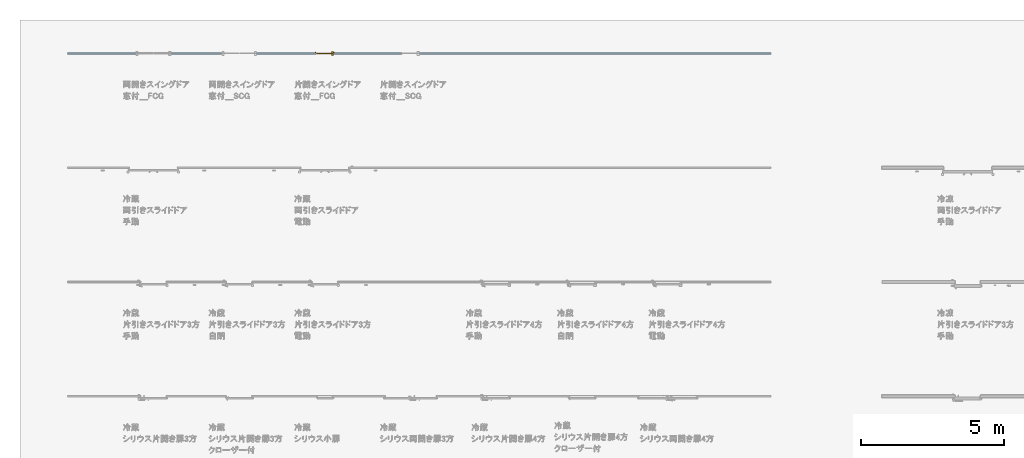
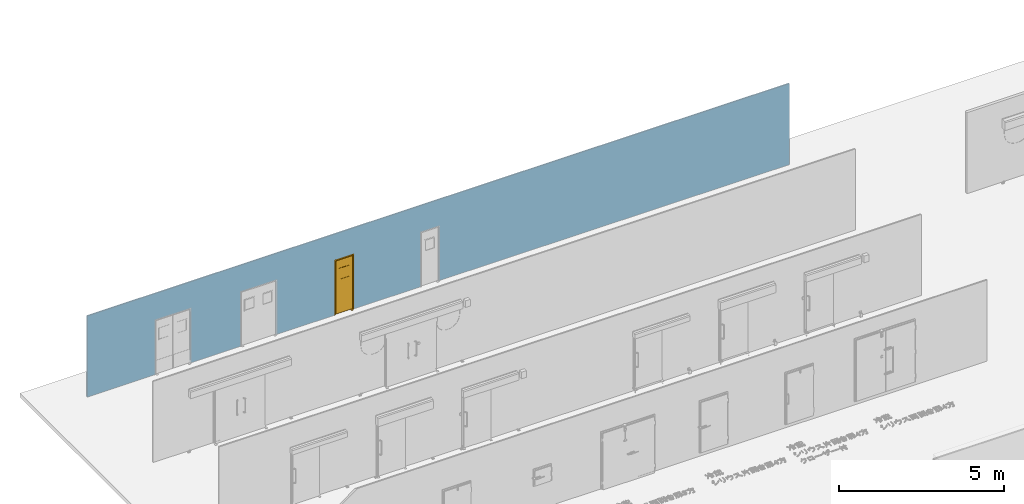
# One storey, part 6 of 16: 1 door, 4 openings, plus 1 element that does not belong to this part.
"""IFC2X3 building model written with IfcOpenShell, lengths in millimetres."""

from ifc_helpers import new_model, entity, si_unit, converted_unit, derived_unit, direction, frame, frame_2d, origin, place, context, subcontext, project, spatial, rectangle, extrude, faceted_brep, source, transform, mapped, material, material_list, layer, layer_set, layer_usage, type_object, type_shapes, element, fill, save


model = new_model("IFC2X3")

# Units and contexts
model_context = context("Model", 3, precision=0.01, world=origin(), true_north=direction((6.123031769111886e-17, 1.0)))
body_context = subcontext(model_context, "Body", "Model", "MODEL_VIEW")
ifc_project = project(units=[si_unit("LENGTHUNIT", "METRE", prefix="MILLI"), si_unit("AREAUNIT", "SQUARE_METRE"), si_unit("VOLUMEUNIT", "CUBIC_METRE"), converted_unit("PLANEANGLEUNIT", "DEGREE", entity("IfcRatioMeasure", 0.017453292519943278), si_unit("PLANEANGLEUNIT", "RADIAN"), dimensions=[0, 0, 0, 0, 0, 0, 0]), si_unit("MASSUNIT", "GRAM", prefix="KILO"), derived_unit("MASSDENSITYUNIT", [(si_unit("MASSUNIT", "GRAM", prefix="KILO"), 1), (si_unit("LENGTHUNIT", "METRE"), -3)]), derived_unit("IONCONCENTRATIONUNIT", [(si_unit("MASSUNIT", "GRAM", prefix="KILO"), 1), (si_unit("LENGTHUNIT", "METRE"), -3)]), derived_unit("MOMENTOFINERTIAUNIT", [(si_unit("LENGTHUNIT", "METRE"), 4)]), si_unit("TIMEUNIT", "SECOND"), si_unit("FREQUENCYUNIT", "HERTZ"), si_unit("THERMODYNAMICTEMPERATUREUNIT", "DEGREE_CELSIUS"), derived_unit("THERMALTRANSMITTANCEUNIT", [(si_unit("MASSUNIT", "GRAM", prefix="KILO"), 1), (si_unit("THERMODYNAMICTEMPERATUREUNIT", "KELVIN"), -1), (si_unit("TIMEUNIT", "SECOND"), -3)]), derived_unit("THERMALCONDUCTANCEUNIT", [(si_unit("MASSUNIT", "GRAM", prefix="KILO"), 1), (si_unit("THERMODYNAMICTEMPERATUREUNIT", "KELVIN"), -1), (si_unit("TIMEUNIT", "SECOND"), -3), (si_unit("LENGTHUNIT", "METRE"), 1)]), derived_unit("VOLUMETRICFLOWRATEUNIT", [(si_unit("LENGTHUNIT", "METRE"), 3), (si_unit("TIMEUNIT", "SECOND"), -1)]), derived_unit("MASSFLOWRATEUNIT", [(si_unit("MASSUNIT", "GRAM", prefix="KILO"), 1), (si_unit("TIMEUNIT", "SECOND"), -1)]), derived_unit("ROTATIONALFREQUENCYUNIT", [(si_unit("TIMEUNIT", "SECOND"), -1)]), si_unit("ELECTRICCURRENTUNIT", "AMPERE"), si_unit("ELECTRICVOLTAGEUNIT", "VOLT"), si_unit("POWERUNIT", "WATT"), si_unit("FORCEUNIT", "NEWTON", prefix="KILO"), si_unit("ILLUMINANCEUNIT", "LUX"), si_unit("LUMINOUSFLUXUNIT", "LUMEN"), si_unit("LUMINOUSINTENSITYUNIT", "CANDELA"), derived_unit("USERDEFINED", [(si_unit("MASSUNIT", "GRAM", prefix="KILO"), -1), (si_unit("LENGTHUNIT", "METRE"), -2), (si_unit("TIMEUNIT", "SECOND"), 3), (si_unit("LUMINOUSFLUXUNIT", "LUMEN"), 1)]), derived_unit("USERDEFINED", [(si_unit("MASSUNIT", "GRAM", prefix="KILO"), 1), (si_unit("TIMEUNIT", "SECOND"), -3), (si_unit("LENGTHUNIT", "METRE"), 3), (si_unit("ELECTRICCURRENTUNIT", "AMPERE"), -2)]), derived_unit("SOUNDPOWERUNIT", [(si_unit("MASSUNIT", "GRAM", prefix="KILO"), 1), (si_unit("TIMEUNIT", "SECOND"), -3), (si_unit("LENGTHUNIT", "METRE"), 2)]), derived_unit("SOUNDPRESSUREUNIT", [(si_unit("MASSUNIT", "GRAM", prefix="KILO"), 1), (si_unit("LENGTHUNIT", "METRE"), -1), (si_unit("TIMEUNIT", "SECOND"), -2)]), derived_unit("LINEARVELOCITYUNIT", [(si_unit("LENGTHUNIT", "METRE"), 1), (si_unit("TIMEUNIT", "SECOND"), -1)]), si_unit("PRESSUREUNIT", "PASCAL"), derived_unit("USERDEFINED", [(si_unit("MASSUNIT", "GRAM", prefix="KILO"), 1), (si_unit("LENGTHUNIT", "METRE"), -2), (si_unit("TIMEUNIT", "SECOND"), -2)]), derived_unit("LINEARFORCEUNIT", [(si_unit("MASSUNIT", "GRAM", prefix="KILO"), 1), (si_unit("TIMEUNIT", "SECOND"), -2)]), derived_unit("PLANARFORCEUNIT", [(si_unit("MASSUNIT", "GRAM", prefix="KILO"), 1), (si_unit("LENGTHUNIT", "METRE"), -1), (si_unit("TIMEUNIT", "SECOND"), -2)]), derived_unit("SPECIFICHEATCAPACITYUNIT", [(si_unit("THERMODYNAMICTEMPERATUREUNIT", "KELVIN"), -1), (si_unit("LENGTHUNIT", "METRE"), 2), (si_unit("TIMEUNIT", "SECOND"), -2)]), derived_unit("HEATINGVALUEUNIT", [(si_unit("LENGTHUNIT", "METRE"), 2), (si_unit("TIMEUNIT", "SECOND"), -2)]), derived_unit("VAPORPERMEABILITYUNIT", [(si_unit("LENGTHUNIT", "METRE"), -1), (si_unit("TIMEUNIT", "SECOND"), 1)]), derived_unit("DYNAMICVISCOSITYUNIT", [(si_unit("MASSUNIT", "GRAM", prefix="KILO"), 1), (si_unit("TIMEUNIT", "SECOND"), -1), (si_unit("LENGTHUNIT", "METRE"), -1)]), derived_unit("THERMALEXPANSIONCOEFFICIENTUNIT", [(si_unit("THERMODYNAMICTEMPERATUREUNIT", "KELVIN"), -1)]), derived_unit("MODULUSOFELASTICITYUNIT", [(si_unit("MASSUNIT", "GRAM", prefix="KILO"), 1), (si_unit("LENGTHUNIT", "METRE"), -1), (si_unit("TIMEUNIT", "SECOND"), -2)]), derived_unit("ISOTHERMALMOISTURECAPACITYUNIT", [(si_unit("LENGTHUNIT", "METRE"), 3), (si_unit("MASSUNIT", "GRAM", prefix="KILO"), -1)]), derived_unit("MOISTUREDIFFUSIVITYUNIT", [(si_unit("TIMEUNIT", "SECOND"), -1), (si_unit("LENGTHUNIT", "METRE"), 2)])], contexts=[model_context])

# Site, building, storey
site_placement = place(None, origin())
site = spatial("IfcSite", under=ifc_project, at=site_placement, Name="Default", CompositionType="ELEMENT")
building_placement = place(site_placement, origin())
building = spatial("IfcBuilding", under=site, at=building_placement, CompositionType="ELEMENT")
storey_placement = place(building_placement, frame((0.0, 0.0, 500.0)))
storey = spatial("IfcBuildingStorey", under=building, at=storey_placement, Name="レベル 1", CompositionType="ELEMENT", Elevation=500.00000000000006)

# Wall, openings, door
ifc_material_1 = material(Name="g-p_硬質ウレタンフォーム")
ifc_layer = layer(ifc_material_1, 44.0)
ifc_layer_set = layer_set([ifc_layer], Name="標準壁:g-p_断熱パネル(フラット)t44")
ifc_layer_usage = layer_usage(ifc_layer_set, "AXIS2", "NEGATIVE", 22.0)
wall_type = type_object("IfcWallType", Name="標準壁:g-p_断熱パネル(フラット)t44", PredefinedType="STANDARD", material=ifc_layer_set)
wall_placement = place(storey_placement, frame((-26100.0, 32000.0, 0.0)))
wall = element("IfcWallStandardCase", 1, at=wall_placement, inside=storey, type_object=wall_type, material=ifc_layer_usage, Name="標準壁:g-p_断熱パネル(フラット)t44", ObjectType="標準壁:g-p_断熱パネル(フラット)t44", context=body_context, shape_type="SweptSolid", body=[
    extrude(rectangle(XDim=24600.000000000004, YDim=43.99999999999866, at=frame_2d((12300.000000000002, 8.704148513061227e-14), x_axis=(1.0, 0.0))), origin(), (0.0, 0.0, 1.0), 3000.000000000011),
])
opening_1_placement = place(wall_placement, frame((2386.500000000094, -22.0, 0.0)))
element("IfcOpeningElement", 2, at=opening_1_placement, cuts=wall, Name="両開きスイングドア_窓付_FCG:W1215xH2005xt40:1", ObjectType="Opening", context=body_context, shape_type="SweptSolid", body=[
    extrude(rectangle(XDim=2010.9999999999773, YDim=1227.001029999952, at=frame_2d((1005.4999999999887, 613.5005149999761), x_axis=(-1.0, 0.0))), frame((0.0, 0.0, 0.0), z_axis=(0.0, 1.0, 0.0), x_axis=(0.0, 0.0, 1.0)), (0.0, 0.0, 1.0), 44.0),
])
opening_2_placement = place(wall_placement, frame((6613.500000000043, 22.0, 0.0)))
element("IfcOpeningElement", 3, at=opening_2_placement, cuts=wall, Name="両開きスイングドア_窓付_SCG:W1215xH2005xt21:1", ObjectType="Opening", context=body_context, shape_type="SweptSolid", body=[
    extrude(rectangle(XDim=2010.9999999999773, YDim=1227.001029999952, at=frame_2d((1005.4999999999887, 613.500514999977), x_axis=(-1.0, 0.0))), frame((0.0, 0.0, 0.0), z_axis=(0.0, -1.0, 0.0), x_axis=(0.0, 0.0, 1.0)), (0.0, 0.0, 1.0), 44.0),
])
opening_3_placement = place(wall_placement, frame((8689.0, -22.0, 0.0)))
opening_3 = element("IfcOpeningElement", 4, at=opening_3_placement, cuts=wall, Name="片開きスイングドア_窓付_FCG:W610xH2005xt40:1", ObjectType="Opening", context=body_context, shape_type="SweptSolid", body=[
    extrude(rectangle(XDim=2010.9999999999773, YDim=622.001029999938, at=frame_2d((1005.4999999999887, 311.0005149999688), x_axis=(-1.0, 0.0))), frame((0.0, 0.0, 0.0), z_axis=(0.0, 1.0, 0.0), x_axis=(0.0, 0.0, 1.0)), (0.0, 0.0, 1.0), 44.0),
])
opening_4_placement = place(wall_placement, frame((12311.001030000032, 22.0, 0.0)))
element("IfcOpeningElement", 5, at=opening_4_placement, cuts=wall, Name="片開きスイングドア_窓付_SCG:W610xH2005xt21:1", ObjectType="Opening", context=body_context, shape_type="SweptSolid", body=[
    extrude(rectangle(XDim=2010.9999999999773, YDim=622.0010299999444, at=frame_2d((1005.4999999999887, 311.0005149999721), x_axis=(-1.0, 0.0))), frame((0.0, 0.0, 0.0), z_axis=(0.0, -1.0, 0.0), x_axis=(0.0, 0.0, 1.0)), (0.0, 0.0, 1.0), 44.0),
])
ifc_material_2 = material(Name="g-p_ゴム")
ifc_material_3 = material(Name="g-p_樹脂")
ifc_material_4 = material(Name="g-p_アクリル")
ifc_material_5 = material(Name="g-p_アルミ")
ifc_material_6 = material(Name="g-p_SUS")
ifc_material_7 = material(Name="g-p_S_SUS鋼板No2B")
ifc_material_list = material_list([ifc_material_2, ifc_material_3, ifc_material_4, ifc_material_5, ifc_material_6, ifc_material_7])
door_style = type_object("IfcDoorStyle", Name="片開きスイングドア_窓付_FCG:W610xH2005xt40", ConstructionType="NOTDEFINED", OperationType="DOUBLE_SWING_RIGHT", ParameterTakesPrecedence=False, Sizeable=False, material=ifc_material_list)
shared_shape = source(origin(), body_context, "Body", "Brep", [
    faceted_brep([(616.0, 21.0, 0.0), (616.0, 21.0, 2005.0), (6.0, 21.0, 2005.0), (6.0, 21.0, 0.0), (600.4999999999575, 21.0, 20.0), (21.499999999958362, 21.0, 20.0), (21.499999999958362, 21.0, 1985.0), (600.4999999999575, 21.0, 1985.0), (616.0, 23.0, 0.0), (616.0, 23.0, 2005.0), (6.0, 23.0, 2005.0), (6.0, 23.0, 0.0), (600.4999999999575, 23.0, 20.0), (21.499999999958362, 23.0, 20.0), (21.499999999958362, 23.0, 1985.0), (600.4999999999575, 23.0, 1985.0)], [[[0, 1, 2, 3], [4, 5, 6, 7]], [[1, 0, 8, 9]], [[3, 2, 10, 11]], [[0, 3, 11, 8]], [[5, 4, 12, 13]], [[6, 5, 13, 14]], [[4, 7, 15, 12]], [[8, 11, 10, 9], [12, 15, 14, 13]], [[2, 1, 9, 10]], [[7, 6, 14, 15]]]),
    faceted_brep([(6.0, -6.000005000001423, 0.0), (-33.999995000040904, -6.000005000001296, 0.0), (-33.999995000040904, 0.0, 0.0), (0.0, 0.0, 0.0), (0.0, 44.0, 0.0), (-33.99999500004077, 44.0, 0.0), (-33.999995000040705, 64.0, 0.0), (6.0, 64.0, 0.0), (6.0, -6.000005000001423, 2005.0), (616.0, -6.00000500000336, 2005.0), (616.0, -6.000005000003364, 0.0), (655.9999949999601, -6.0000050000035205, 0.0), (655.9999949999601, -6.000005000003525, 2044.9999949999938), (-33.999995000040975, -6.000005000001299, 2044.9999949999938), (-33.999995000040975, 0.0, 2044.9999949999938), (655.9999949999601, 0.0, 2044.9999949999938), (655.9999949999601, 0.0, 0.0), (622.0, 0.0, 0.0), (622.0, 0.0, 2011.0), (0.0, 0.0, 2011.0), (0.0, 44.0, 2011.0), (622.0, 44.0, 2011.0), (622.0, 44.0, 0.0), (655.9999949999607, 44.0, 0.0), (655.9999949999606, 44.0, 2044.9999949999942), (-33.99999500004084, 44.0, 2044.9999949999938), (-33.99999500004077, 64.0, 2044.9999949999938), (655.9999949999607, 64.0, 2044.9999949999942), (655.9999949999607, 64.0, 0.0), (616.0, 64.0, 0.0), (616.0, 64.0, 2005.0), (6.0, 64.0, 2005.0)], [[[0, 1, 2, 3, 4, 5, 6, 7]], [[1, 0, 8, 9, 10, 11, 12, 13]], [[2, 1, 13, 14]], [[3, 2, 14, 15, 16, 17, 18, 19]], [[4, 3, 19, 20]], [[5, 4, 20, 21, 22, 23, 24, 25]], [[6, 5, 25, 26]], [[7, 6, 26, 27, 28, 29, 30, 31]], [[0, 7, 31, 8]], [[9, 30, 29, 10]], [[10, 29, 28, 23, 22, 17, 16, 11]], [[15, 12, 11, 16]], [[21, 18, 17, 22]], [[27, 24, 23, 28]], [[20, 19, 18, 21]], [[26, 25, 24, 27]], [[8, 31, 30, 9]], [[14, 13, 12, 15]]]),
    faceted_brep([(162.4999999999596, 37.0, 1270.0), (477.4999999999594, 37.0, 1270.0), (477.4999999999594, 37.0, 1650.0), (162.49999999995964, 37.0, 1650.0), (162.4999999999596, 42.0, 1270.0), (162.4999999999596, 42.0, 1650.0), (477.4999999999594, 42.0, 1650.0), (477.4999999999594, 42.0, 1270.0)], [[[0, 1, 2, 3]], [[4, 5, 6, 7]], [[4, 7, 1, 0]], [[7, 6, 2, 1]], [[6, 5, 3, 2]], [[5, 4, 0, 3]]]),
    faceted_brep([(162.49999999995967, 7.0, 1270.0), (162.49999999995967, 7.0, 1650.0), (477.49999999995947, 7.0, 1650.0), (477.4999999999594, 7.0, 1270.0), (162.49999999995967, 2.0, 1270.0), (477.4999999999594, 2.0, 1270.0), (477.4999999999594, 2.0, 1650.0), (162.49999999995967, 2.0, 1650.0)], [[[0, 1, 2, 3]], [[4, 5, 6, 7]], [[5, 4, 0, 3]], [[6, 5, 3, 2]], [[7, 6, 2, 1]], [[4, 7, 1, 0]]]),
    faceted_brep([(162.49999999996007, 50.0, 1650.0), (162.49999999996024, -6.0, 1650.0), (162.4999999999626, -6.0, 1270.0), (162.49999999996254, 50.0, 1270.0), (132.49999999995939, -6.0, 1680.0), (132.4999999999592, 50.0, 1680.0), (132.49999999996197, 50.0, 1240.0), (132.49999999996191, -6.0, 1240.0), (477.4999999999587, -6.0, 1270.0), (477.49999999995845, 50.0, 1270.0), (507.499999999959, 50.0, 1240.0), (507.49999999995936, -6.0, 1240.0), (477.49999999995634, -6.0, 1650.0), (477.499999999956, 50.0, 1650.0), (507.4999999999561, 50.0, 1680.0), (507.4999999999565, -6.0, 1680.0)], [[[0, 1, 2, 3]], [[4, 5, 6, 7]], [[3, 2, 8, 9]], [[7, 6, 10, 11]], [[9, 8, 12, 13]], [[11, 10, 14, 15]], [[3, 9, 13, 0], [5, 14, 10, 6]], [[13, 12, 1, 0]], [[7, 11, 15, 4], [1, 12, 8, 2]], [[15, 14, 5, 4]]], outer=[[True], [True], [True], [True], [True], [True], [False, True], [True], [True, False], [True]]),
    faceted_brep([(445.9996799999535, -3.0, 2001.0001200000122), (611.999819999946, -3.0, 2001.0001200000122), (611.999819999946, -3.0, 1905.0003600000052), (616.0, -3.0, 1905.0003600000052), (616.0, -3.0, 2005.0), (445.9996799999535, -3.0, 2005.0), (445.9996799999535, 47.0, 2001.0001200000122), (445.9996799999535, 47.0, 2005.0), (616.0, 47.0, 2005.0), (616.0, 47.0, 1905.0003600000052), (611.999819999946, 47.0, 1905.0003600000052), (611.999819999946, 47.0, 2001.0001200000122)], [[[0, 1, 2, 3, 4, 5]], [[6, 7, 8, 9, 10, 11]], [[1, 0, 6, 11]], [[2, 1, 11, 10]], [[3, 2, 10, 9]], [[4, 3, 9, 8]], [[5, 4, 8, 7]], [[0, 5, 7, 6]]]),
    faceted_brep([(575.2785128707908, 23.682323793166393, 2001.0001200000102), (574.6291601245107, 25.250000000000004, 2001.0001200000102), (573.5961890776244, 26.59619407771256, 2001.0001200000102), (572.2499949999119, 27.629165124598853, 2001.0001200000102), (570.6823187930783, 28.278517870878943, 2001.0001200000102), (568.9999949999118, 28.5, 2001.0001200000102), (567.3176712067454, 28.278517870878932, 2001.0001200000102), (565.7499949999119, 27.62916512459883, 2001.0001200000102), (564.4038009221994, 26.596194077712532, 2001.0001200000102), (563.370829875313, 25.24999999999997, 2001.0001200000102), (562.721477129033, 23.682323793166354, 2001.0001200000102), (562.4999949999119, 22.0, 2001.0001200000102), (562.721477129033, 20.317676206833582, 2001.0001200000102), (563.3708298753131, 18.749999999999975, 2001.0001200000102), (564.4038009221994, 17.40380592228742, 2001.0001200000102), (565.7499949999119, 16.370834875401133, 2001.0001200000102), (567.3176712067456, 15.721482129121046, 2001.0001200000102), (568.999994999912, 15.499999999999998, 2001.0001200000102), (570.6823187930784, 15.72148212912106, 2001.0001200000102), (572.2499949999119, 16.370834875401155, 2001.0001200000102), (573.5961890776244, 17.40380592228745, 2001.0001200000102), (574.6291601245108, 18.75000000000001, 2001.0001200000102), (575.2785128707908, 20.317676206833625, 2001.0001200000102), (575.4999949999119, 22.0, 2001.0001200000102), (562.721477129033, 23.682323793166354, 1985.0), (563.3708298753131, 25.24999999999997, 1985.0), (564.4038009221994, 26.596194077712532, 1985.0), (565.7499949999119, 27.62916512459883, 1985.0), (567.3176712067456, 28.278517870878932, 1985.0), (568.999994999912, 28.5, 1985.0), (570.6823187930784, 28.278517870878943, 1985.0), (572.249994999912, 27.629165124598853, 1985.0), (573.5961890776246, 26.59619407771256, 1985.0), (574.6291601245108, 25.250000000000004, 1985.0), (575.2785128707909, 23.682323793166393, 1985.0), (575.499994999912, 22.0, 1985.0), (575.2785128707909, 20.317676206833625, 1985.0), (574.6291601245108, 18.75000000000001, 1985.0), (573.5961890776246, 17.40380592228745, 1985.0), (572.249994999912, 16.370834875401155, 1985.0), (570.6823187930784, 15.72148212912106, 1985.0), (568.999994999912, 15.499999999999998, 1985.0), (567.3176712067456, 15.721482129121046, 1985.0), (565.749994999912, 16.370834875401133, 1985.0), (564.4038009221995, 17.40380592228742, 1985.0), (563.3708298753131, 18.749999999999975, 1985.0), (562.721477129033, 20.317676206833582, 1985.0), (562.499994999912, 22.0, 1985.0)], [[[0, 1, 2, 3, 4, 5, 6, 7, 8, 9, 10, 11, 12, 13, 14, 15, 16, 17, 18, 19, 20, 21, 22, 23]], [[24, 25, 26, 27, 28, 29, 30, 31, 32, 33, 34, 35, 36, 37, 38, 39, 40, 41, 42, 43, 44, 45, 46, 47]], [[16, 42, 41, 17]], [[15, 43, 42, 16]], [[45, 44, 14, 13]], [[15, 14, 44, 43]], [[46, 45, 13, 12]], [[47, 46, 12, 11]], [[10, 24, 47, 11]], [[9, 25, 24, 10]], [[27, 26, 8, 7]], [[9, 8, 26, 25]], [[28, 27, 7, 6]], [[29, 28, 6, 5]], [[4, 30, 29, 5]], [[3, 31, 30, 4]], [[33, 32, 2, 1]], [[3, 2, 32, 31]], [[34, 33, 1, 0]], [[35, 34, 0, 23]], [[22, 36, 35, 23]], [[21, 37, 36, 22]], [[39, 38, 20, 19]], [[21, 20, 38, 37]], [[40, 39, 19, 18]], [[41, 40, 18, 17]]]),
    faceted_brep([(570.6823187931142, 15.721482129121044, 20.0), (572.249994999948, 16.37083487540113, 20.0), (573.5961890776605, 17.403805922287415, 20.0), (574.6291601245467, 18.749999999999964, 20.0), (575.2785128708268, 20.317676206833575, 20.0), (575.499994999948, 22.0, 20.0), (575.2785128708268, 23.682323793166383, 20.0), (574.6291601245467, 25.249999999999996, 20.0), (573.5961890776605, 26.596194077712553, 20.0), (572.249994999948, 27.62916512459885, 20.0), (570.6823187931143, 28.27851787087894, 20.0), (568.999994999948, 28.5, 20.0), (567.3176712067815, 28.278517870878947, 20.0), (565.749994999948, 27.629165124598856, 20.0), (564.4038009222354, 26.596194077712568, 20.0), (563.370829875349, 25.250000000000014, 20.0), (562.7214771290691, 23.6823237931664, 20.0), (562.499994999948, 22.0, 20.0), (562.7214771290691, 20.317676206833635, 20.0), (563.370829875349, 18.75000000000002, 20.0), (564.4038009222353, 17.403805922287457, 20.0), (565.749994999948, 16.370834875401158, 20.0), (567.3176712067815, 15.721482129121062, 20.0), (568.9999949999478, 15.499999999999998, 20.0), (570.6823187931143, 28.27851787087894, 4.0), (572.249994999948, 27.62916512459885, 4.0), (573.5961890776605, 26.596194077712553, 4.0), (574.6291601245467, 25.249999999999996, 4.0), (575.2785128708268, 23.682323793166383, 4.0), (575.499994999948, 22.0, 4.0), (575.2785128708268, 20.317676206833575, 4.0), (574.6291601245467, 18.749999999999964, 4.0), (573.5961890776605, 17.403805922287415, 4.0), (572.249994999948, 16.37083487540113, 4.0), (570.6823187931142, 15.721482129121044, 4.0), (568.9999949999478, 15.499999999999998, 4.0), (567.3176712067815, 15.721482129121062, 4.0), (565.749994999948, 16.370834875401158, 4.0), (564.4038009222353, 17.403805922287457, 4.0), (563.370829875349, 18.75000000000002, 4.0), (562.7214771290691, 20.317676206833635, 4.0), (562.499994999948, 22.0, 4.0), (562.7214771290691, 23.6823237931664, 4.0), (563.370829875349, 25.250000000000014, 4.0), (564.4038009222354, 26.596194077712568, 4.0), (565.749994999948, 27.629165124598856, 4.0), (567.3176712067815, 28.278517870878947, 4.0), (568.999994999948, 28.5, 4.0)], [[[0, 1, 2, 3, 4, 5, 6, 7, 8, 9, 10, 11, 12, 13, 14, 15, 16, 17, 18, 19, 20, 21, 22, 23]], [[24, 25, 26, 27, 28, 29, 30, 31, 32, 33, 34, 35, 36, 37, 38, 39, 40, 41, 42, 43, 44, 45, 46, 47]], [[28, 6, 5, 29]], [[27, 7, 6, 28]], [[9, 8, 26, 25]], [[27, 26, 8, 7]], [[10, 9, 25, 24]], [[11, 10, 24, 47]], [[46, 12, 11, 47]], [[45, 13, 12, 46]], [[15, 14, 44, 43]], [[45, 44, 14, 13]], [[16, 15, 43, 42]], [[17, 16, 42, 41]], [[40, 18, 17, 41]], [[39, 19, 18, 40]], [[21, 20, 38, 37]], [[39, 38, 20, 19]], [[22, 21, 37, 36]], [[23, 22, 36, 35]], [[34, 0, 23, 35]], [[33, 1, 0, 34]], [[3, 2, 32, 31]], [[33, 32, 2, 1]], [[4, 3, 31, 30]], [[5, 4, 30, 29]]]),
    faceted_brep([(612.0003199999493, -3.0, 120.0), (612.0003199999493, -3.0, 4.0), (616.0, -3.0, 4.0), (616.0, -3.0, 120.0), (612.0003199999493, 47.0, 120.0), (616.0, 47.0, 120.0), (616.0, 47.0, 4.0), (612.0003199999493, 47.0, 4.0), (616.0, -53.0, 4.0), (616.0, -53.0, 0.0), (616.0, 97.0, 0.0), (616.0, 97.0, 4.0), (542.5003199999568, -53.0, 0.0), (542.5003199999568, 97.0, 0.0), (542.5003199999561, -53.0, 4.0), (542.5003199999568, 97.0, 4.0)], [[[0, 1, 2, 3]], [[4, 5, 6, 7]], [[0, 3, 5, 4]], [[5, 3, 2, 8, 9, 10, 11, 6]], [[10, 9, 12, 13]], [[13, 12, 14, 15]], [[15, 14, 8, 2, 1, 7, 6, 11]], [[1, 0, 4, 7]], [[14, 12, 9, 8]], [[15, 11, 10, 13]]]),
    faceted_brep([(21.499999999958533, 42.0, 1985.0), (600.4999999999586, 42.0, 1985.0), (600.4999999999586, 42.0, 20.0), (21.499999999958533, 42.0, 20.0), (132.49999999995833, 42.0, 1680.0), (132.49999999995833, 42.0, 1240.0), (507.4999999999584, 42.0, 1240.0), (507.4999999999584, 42.0, 1680.0), (600.4999999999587, 2.0, 1985.0), (600.4999999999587, 2.0, 20.0), (21.499999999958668, 2.0, 20.0), (21.499999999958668, 2.0, 1985.0), (132.49999999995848, 2.0, 1680.0), (507.4999999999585, 2.0, 1680.0), (507.4999999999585, 2.0, 1240.0), (132.49999999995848, 2.0, 1240.0)], [[[0, 1, 2, 3], [4, 5, 6, 7]], [[2, 1, 8, 9]], [[3, 2, 9, 10]], [[0, 3, 10, 11]], [[11, 10, 9, 8], [12, 13, 14, 15]], [[1, 0, 11, 8]], [[4, 7, 13, 12]], [[7, 6, 14, 13]], [[6, 5, 15, 14]], [[5, 4, 12, 15]]]),
])
type_shapes(door_style, [shared_shape])
door_placement = place(opening_3_placement, origin())
door = element("IfcDoor", 6, at=door_placement, inside=storey, type_object=door_style, material=ifc_material_list, Name="片開きスイングドア_窓付_FCG:W610xH2005xt40", ObjectType="片開きスイングドア_窓付_FCG:W610xH2005xt40", OverallHeight=2010.9999999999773, OverallWidth=622.0010299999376, context=body_context, shape_type="MappedRepresentation", body=[
    mapped(shared_shape, transform((0.0, 0.0, 0.0), scale=1.0)),
])
fill(opening_3, door)

save(model, "model.ifc")
